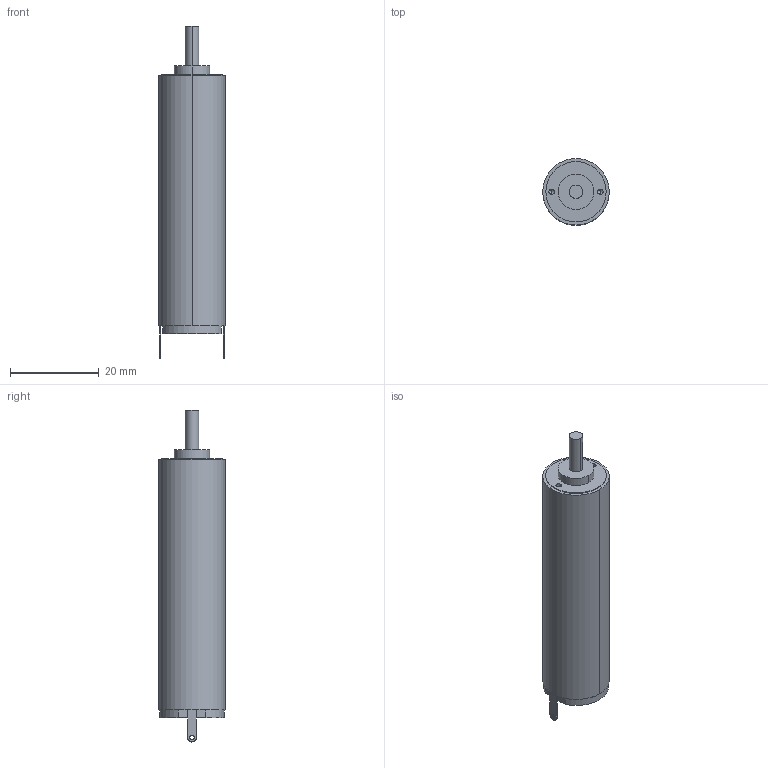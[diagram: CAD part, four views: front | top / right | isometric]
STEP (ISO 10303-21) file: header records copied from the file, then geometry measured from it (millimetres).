
FILE_DESCRIPTION (( 'STEP AP214' ), '1' );
FILE_NAME ('NC-1557.STEP', '2024-11-12T07:15:11', ( '' ), ( '' ), 'SwSTEP 2.0', 'SolidWorks 2024', '' );
FILE_SCHEMA (( 'AUTOMOTIVE_DESIGN' ));
Length unit declared in the file: millimetre
Products named in the file (1): NC-1557
Bounding box: 15 x 15 x 74.88 mm (x, y, z)
Volume: 10451 mm3; surface area: 3324.1 mm2
Topology: 1 solids, 1 shells, 42 faces, 98 edges, 62 vertices
Faces by surface type: cylinder 22, plane 16, cone 4
Entity records: 1217 total; most frequent: DIRECTION 224, CARTESIAN_POINT 199, ORIENTED_EDGE 188, EDGE_CURVE 94, AXIS2_PLACEMENT_3D 87, VERTEX_POINT 62, EDGE_LOOP 54, VECTOR 50
